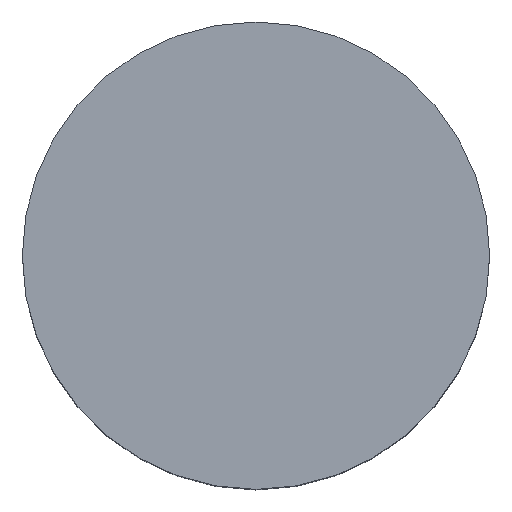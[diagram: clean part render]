
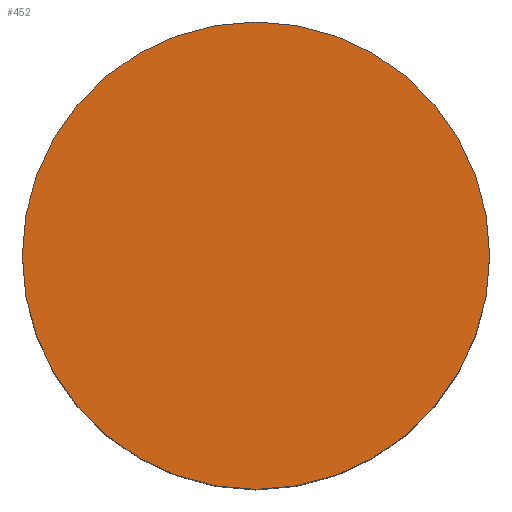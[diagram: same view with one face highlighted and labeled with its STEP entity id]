
A CAD part, top view. The second image highlights one B-rep face of the part: STEP entity #452.
In plain terms, the highlighted planar face has unit normal (0, 0, 1).
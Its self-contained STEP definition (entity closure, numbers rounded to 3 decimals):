
#431 = VERTEX_POINT ( 'NONE', #16652 ) ;
#452 = ADVANCED_FACE ( 'NONE', ( #31583 ), #17242, .T. ) ;
#510 = VERTEX_POINT ( 'NONE', #17355 ) ;
#1325 = DIRECTION ( 'NONE',  ( 0., 0., 1. ) ) ;
#3407 = CARTESIAN_POINT ( 'NONE',  ( 0., 0., 43.2 ) ) ;
#5029 = DIRECTION ( 'NONE',  ( 0., 0., 1. ) ) ;
#6216 = ORIENTED_EDGE ( 'NONE', *, *, #23735, .T. ) ;
#7521 = EDGE_LOOP ( 'NONE', ( #10788, #6216 ) ) ;
#8013 = EDGE_CURVE ( 'NONE', #510, #431, #28412, .T. ) ;
#10788 = ORIENTED_EDGE ( 'NONE', *, *, #8013, .T. ) ;
#11431 = AXIS2_PLACEMENT_3D ( 'NONE', #21010, #5029, #23661 ) ;
#14817 = DIRECTION ( 'NONE',  ( 0., 0., 1. ) ) ;
#15376 = AXIS2_PLACEMENT_3D ( 'NONE', #3407, #1325, #19932 ) ;
#16652 = CARTESIAN_POINT ( 'NONE',  ( 29.3, 0., 43.2 ) ) ;
#17242 = PLANE ( 'NONE',  #15376 ) ;
#17355 = CARTESIAN_POINT ( 'NONE',  ( -29.3, 0., 43.2 ) ) ;
#19932 = DIRECTION ( 'NONE',  ( 1., 0., 0. ) ) ;
#21010 = CARTESIAN_POINT ( 'NONE',  ( 0., 0., 43.2 ) ) ;
#23661 = DIRECTION ( 'NONE',  ( 1., 0., 0. ) ) ;
#23735 = EDGE_CURVE ( 'NONE', #431, #510, #26240, .T. ) ;
#26240 = CIRCLE ( 'NONE', #30366, 29.3 ) ;
#28412 = CIRCLE ( 'NONE', #11431, 29.3 ) ;
#30366 = AXIS2_PLACEMENT_3D ( 'NONE', #30779, #14817, #33449 ) ;
#30779 = CARTESIAN_POINT ( 'NONE',  ( 0., 0., 43.2 ) ) ;
#31583 = FACE_OUTER_BOUND ( 'NONE', #7521, .T. ) ;
#33449 = DIRECTION ( 'NONE',  ( 1., 0., 0. ) ) ;
